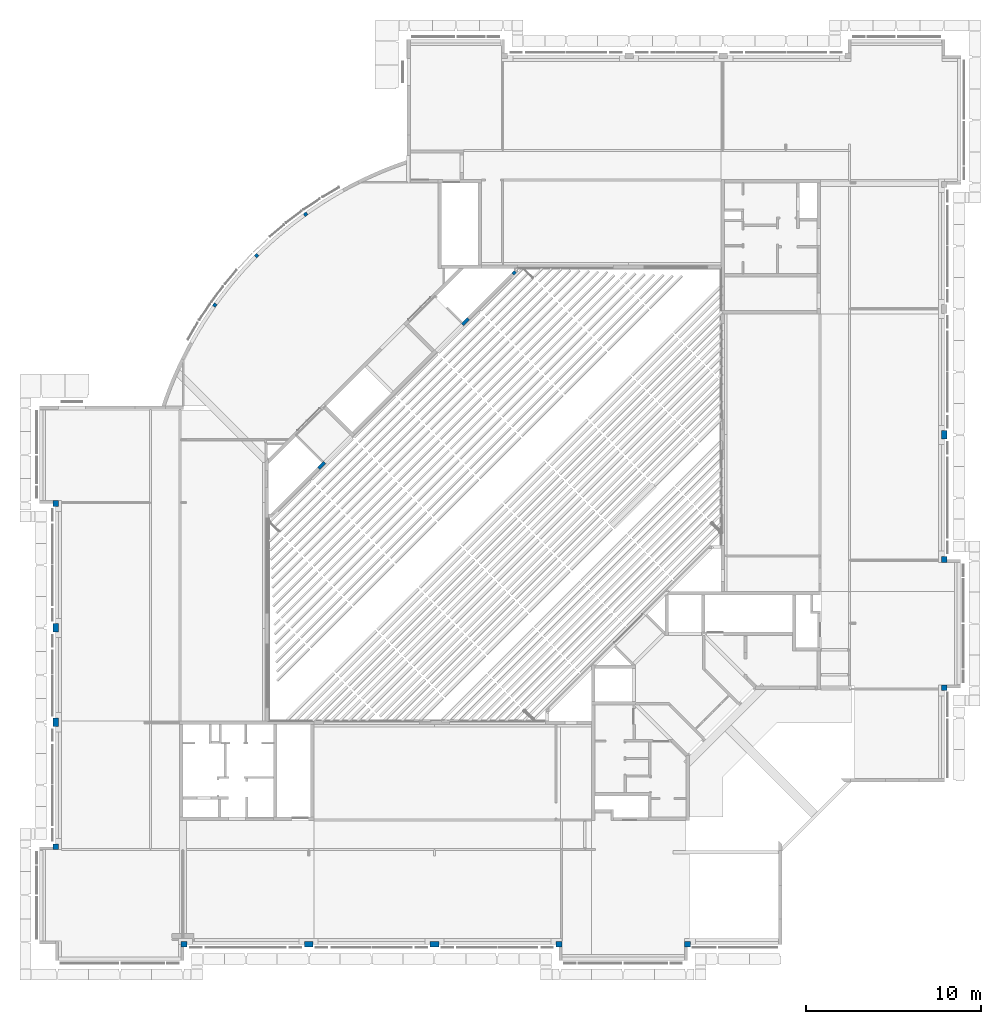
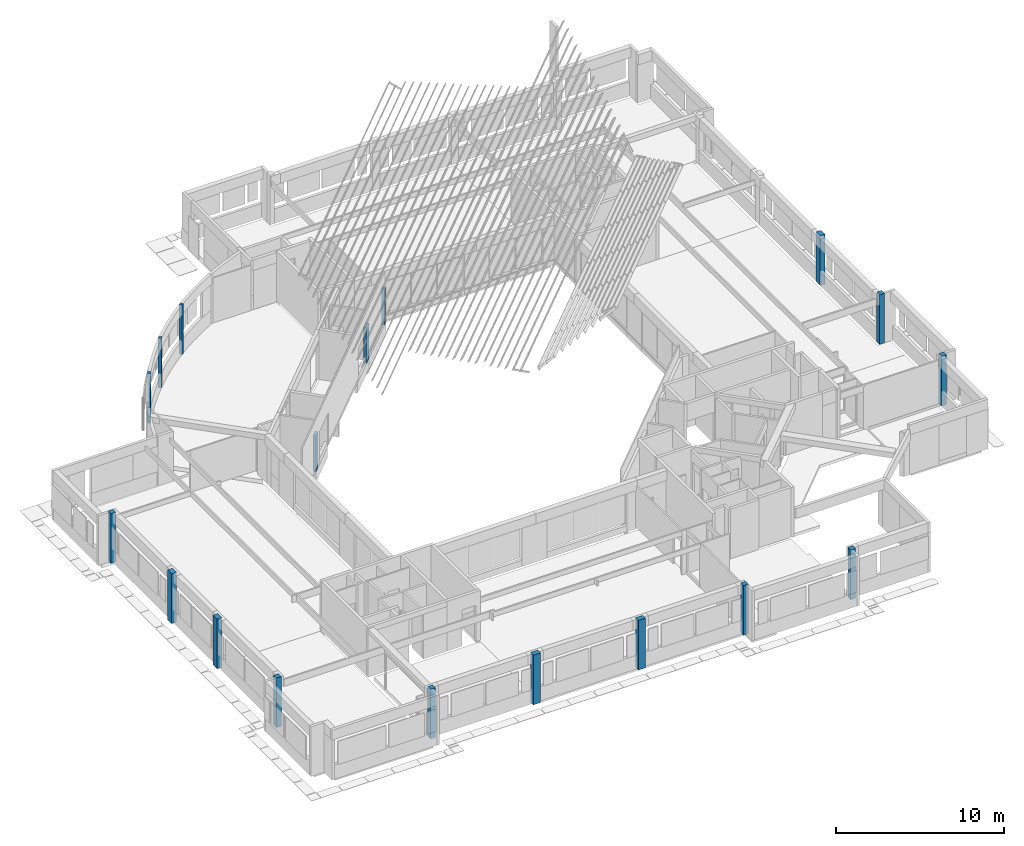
# One storey, part 1 of 37: 18 columns.
"""IFC4X3_ADD2 building model written with IfcOpenShell, lengths in millimetres."""

from ifc_helpers import new_model, si_unit, direction, frame, frame_2d, origin_with_axes, origin_2d_with_axis, place, context, subcontext, project, spatial, rectangle, extrude, source, transform, mapped, material, type_object, type_shapes, element, save


model = new_model("IFC4X3_ADD2")

# Units and contexts
model_context = context("Model", 3, precision=1e-05, world=origin_with_axes(), true_north=direction((0.0, 1.0)))
body_context = subcontext(model_context, "Body", "Model", "MODEL_VIEW")
ifc_project = project(units=[si_unit("LENGTHUNIT", "METRE", prefix="MILLI"), si_unit("AREAUNIT", "SQUARE_METRE"), si_unit("VOLUMEUNIT", "CUBIC_METRE"), si_unit("PLANEANGLEUNIT", "RADIAN"), si_unit("TIMEUNIT", "SECOND"), si_unit("MASSUNIT", "GRAM")], contexts=[model_context])

# Site, building, storey
site_placement = place(None, origin_with_axes())
site = spatial("IfcSite", under=ifc_project, at=site_placement, Name="Site", CompositionType="ELEMENT")
building_placement = place(site_placement, origin_with_axes())
building = spatial("IfcBuilding", under=site, at=building_placement, Name="IFC Building Story")
storey_placement = place(building_placement, frame((0.0, 0.0, 3600.0), z_axis=(0.0, 0.0, 1.0), x_axis=(1.0, 0.0, 0.0)))
storey = spatial("IfcBuildingStorey", under=building, at=storey_placement, Name="010", Elevation=3600.0)

# Columns
ifc_material_1 = material(Name="BB_Beton_Bestaand")
column_type_1 = type_object("IfcColumnType", Name="BB_XX_Kolom_ rechthoekig_ center-center_GTL_340 mm x 340 mm25", PredefinedType="NOTDEFINED")
shared_shape_1 = source(origin_with_axes(), body_context, "Body", "SweptSolid", [
    extrude(rectangle(XDim=340.0, YDim=340.000000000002, at=origin_2d_with_axis()), frame((0.0, 0.0, 3400.0), z_axis=(0.0, 0.0, 1.0), x_axis=(1.0, 0.0, 0.0)), (0.0, 0.0, 1.0), 3600.0),
])
type_shapes(column_type_1, [shared_shape_1])
for number, where, z_axis, x_axis in (
    (1, (-50775.0, 5505.0, -3600.0), (0.0, 0.0, 1.0), (1.0, 0.0, 0.0)),
    (2, (-50775.0, 25155.0, -3600.0), (0.0, 0.0, 1.0), (1.0, 0.0, 0.0)),
    (3, (-43425.0, -75.0, -3600.0), (0.0, 0.0, 1.0), (1.0, 0.0, 0.0)),
    (4, (-21975.0, -75.0, -3600.0), (0.0, 0.0, 1.0), (1.0, 0.0, 0.0)),
    (5, (-14625.0, -75.0, -3600.0), (0.0, 0.0, 1.0), (1.0, 0.0, 0.0)),
):
    element("IfcColumn", number, at=place(storey_placement, frame(where, z_axis=z_axis, x_axis=x_axis)), inside=storey, type_object=column_type_1, material=ifc_material_1, Name="BB_XX_Kolom, rechthoekig, center-center_GTL:340 mm x 340 mm", ObjectType="340 mm x 340 mm", PredefinedType="COLUMN", context=body_context, shape_type="MappedRepresentation", body=[
        mapped(shared_shape_1, transform((0.0, 0.0, 0.0))),
    ])
column_type_2 = type_object("IfcColumnType", Name="BB_XX_Kolom_ rechthoekig_ center-center_GTL_490 mm x 340 mm17", PredefinedType="NOTDEFINED")
shared_shape_2 = source(origin_with_axes(), body_context, "Body", "SweptSolid", [
    extrude(rectangle(XDim=490.0, YDim=340.0, at=origin_2d_with_axis()), frame((0.0, 0.0, 3400.0), z_axis=(0.0, 0.0, 1.0), x_axis=(1.0, 0.0, 0.0)), (0.0, 0.0, 1.0), 3600.0),
])
type_shapes(column_type_2, [shared_shape_2])
for number, where, z_axis, x_axis in (
    (6, (-50775.0, 12630.0, -3600.0), (0.0, 0.0, 1.0), (0.0, 1.0, 0.0)),
    (7, (-50775.0, 18030.0, -3600.0), (0.0, 0.0, 1.0), (0.0, 1.0, 0.0)),
    (8, (-36300.0, -75.0, -3600.0), (0.0, 0.0, 1.0), (1.0, 0.0, 0.0)),
    (9, (-29100.0, -75.0, -3600.0), (0.0, 0.0, 1.0), (1.0, 0.0, 0.0)),
    (10, (75.0, 29080.0, -3600.0), (0.0, 0.0, 1.0), (0.0, 1.0, 0.0)),
):
    element("IfcColumn", number, at=place(storey_placement, frame(where, z_axis=z_axis, x_axis=x_axis)), inside=storey, type_object=column_type_2, material=ifc_material_1, Name="BB_XX_Kolom, rechthoekig, center-center_GTL:490 mm x 340 mm", ObjectType="490 mm x 340 mm", PredefinedType="COLUMN", context=body_context, shape_type="MappedRepresentation", body=[
        mapped(shared_shape_2, transform((0.0, 0.0, 0.0))),
    ])
column_type_3 = type_object("IfcColumnType", Name="BB_XX_Kolom_ rechthoekig_ center-center_GTL_340 mm x 340 mm27", PredefinedType="NOTDEFINED")
shared_shape_3 = source(origin_with_axes(), body_context, "Body", "SweptSolid", [
    extrude(rectangle(XDim=340.0, YDim=340.0, at=origin_2d_with_axis()), frame((75.0, 14605.0, 3400.0), z_axis=(0.0, 0.0, 1.0), x_axis=(1.0, 0.0, 0.0)), (0.0, 0.0, 1.0), 3600.0),
])
type_shapes(column_type_3, [shared_shape_3])
column_1_placement = place(storey_placement, frame((0.0, 0.0, -3600.0), z_axis=(0.0, 0.0, 1.0), x_axis=(1.0, 0.0, 0.0)))
element("IfcColumn", 11, at=column_1_placement, inside=storey, type_object=column_type_3, material=ifc_material_1, Name="BB_XX_Kolom, rechthoekig, center-center_GTL:340 mm x 340 mm", ObjectType="340 mm x 340 mm", PredefinedType="COLUMN", context=body_context, shape_type="MappedRepresentation", body=[
    mapped(shared_shape_3, transform((0.0, 0.0, 0.0))),
])
column_type_4 = type_object("IfcColumnType", Name="BB_XX_Kolom_ rechthoekig_ center-center_GTL_340 mm x 340 mm29", PredefinedType="NOTDEFINED")
shared_shape_4 = source(origin_with_axes(), body_context, "Body", "SweptSolid", [
    extrude(rectangle(XDim=340.0, YDim=340.0, at=origin_2d_with_axis()), frame((75.0, 21955.0, 3400.0), z_axis=(0.0, 0.0, 1.0), x_axis=(1.0, 0.0, 0.0)), (0.0, 0.0, 1.0), 3600.0),
])
type_shapes(column_type_4, [shared_shape_4])
column_2_placement = place(storey_placement, frame((0.0, 0.0, -3600.0), z_axis=(0.0, 0.0, 1.0), x_axis=(1.0, 0.0, 0.0)))
element("IfcColumn", 12, at=column_2_placement, inside=storey, type_object=column_type_4, material=ifc_material_1, Name="BB_XX_Kolom, rechthoekig, center-center_GTL:340 mm x 340 mm", ObjectType="340 mm x 340 mm", PredefinedType="COLUMN", context=body_context, shape_type="MappedRepresentation", body=[
    mapped(shared_shape_4, transform((0.0, 0.0, 0.0))),
])
column_type_5 = type_object("IfcColumnType", Name="BB_XX_Kolom_ rechthoekig_ center-center_GTL_200 mm x 200 mm9", PredefinedType="NOTDEFINED")
shared_shape_5 = source(origin_with_axes(), body_context, "Body", "SweptSolid", [
    extrude(rectangle(XDim=199.9999999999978, YDim=200.000000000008, at=frame_2d((0.0, 0.0), x_axis=(0.7071067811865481, 0.7071067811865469))), frame((-39279.93590277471, 39338.5755130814, 3400.0), z_axis=(0.0, 0.0, 1.0), x_axis=(1.0, 0.0, 0.0)), (0.0, 0.0, 1.0), 3600.0),
])
type_shapes(column_type_5, [shared_shape_5])
column_3_placement = place(storey_placement, frame((0.0, 0.0, -3600.0), z_axis=(0.0, 0.0, 1.0), x_axis=(1.0, 0.0, 0.0)))
element("IfcColumn", 13, at=column_3_placement, inside=storey, type_object=column_type_5, material=ifc_material_1, Name="BB_XX_Kolom, rechthoekig, center-center_GTL:200 mm x 200 mm", ObjectType="200 mm x 200 mm", PredefinedType="COLUMN", context=body_context, shape_type="MappedRepresentation", body=[
    mapped(shared_shape_5, transform((0.0, 0.0, 0.0))),
])
column_type_6 = type_object("IfcColumnType", Name="BB_XX_Kolom_ rechthoekig_ center-center_GTL_200 mm x 200 mm11", PredefinedType="NOTDEFINED")
shared_shape_6 = source(origin_with_axes(), body_context, "Body", "SweptSolid", [
    extrude(rectangle(XDim=199.9999999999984, YDim=200.0000000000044, at=frame_2d((0.0, 0.0), x_axis=(0.5735764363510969, 0.8191520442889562))), frame((-41675.1176866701, 36504.71154364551, 3400.0), z_axis=(0.0, 0.0, 1.0), x_axis=(1.0, 0.0, 0.0)), (0.0, 0.0, 1.0), 3600.0),
])
type_shapes(column_type_6, [shared_shape_6])
column_4_placement = place(storey_placement, frame((0.0, 0.0, -3600.0), z_axis=(0.0, 0.0, 1.0), x_axis=(1.0, 0.0, 0.0)))
element("IfcColumn", 14, at=column_4_placement, inside=storey, type_object=column_type_6, material=ifc_material_1, Name="BB_XX_Kolom, rechthoekig, center-center_GTL:200 mm x 200 mm", ObjectType="200 mm x 200 mm", PredefinedType="COLUMN", context=body_context, shape_type="MappedRepresentation", body=[
    mapped(shared_shape_6, transform((0.0, 0.0, 0.0))),
])
column_type_7 = type_object("IfcColumnType", Name="BB_XX_Kolom_ rechthoekig_ center-center_GTL_200 mm x 200 mm13", PredefinedType="NOTDEFINED")
shared_shape_7 = source(origin_with_axes(), body_context, "Body", "SweptSolid", [
    extrude(rectangle(XDim=200.0000000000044, YDim=200.0000000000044, at=frame_2d((0.0, 0.0), x_axis=(0.8191520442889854, 0.5735764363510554))), frame((-36474.8978894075, 41702.7423259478, 3400.0), z_axis=(0.0, 0.0, 1.0), x_axis=(1.0, 0.0, 0.0)), (0.0, 0.0, 1.0), 3600.0),
])
type_shapes(column_type_7, [shared_shape_7])
column_5_placement = place(storey_placement, frame((0.0, 0.0, -3600.0), z_axis=(0.0, 0.0, 1.0), x_axis=(1.0, 0.0, 0.0)))
element("IfcColumn", 15, at=column_5_placement, inside=storey, type_object=column_type_7, material=ifc_material_1, Name="BB_XX_Kolom, rechthoekig, center-center_GTL:200 mm x 200 mm", ObjectType="200 mm x 200 mm", PredefinedType="COLUMN", context=body_context, shape_type="MappedRepresentation", body=[
    mapped(shared_shape_7, transform((0.0, 0.0, 0.0))),
])
ifc_material_2 = material(Name="Concrete, C30/37")
column_type_8 = type_object("IfcColumnType", Name="BB_XX_Kolom_ rechthoekig_ center-center_GTL_190 mm x 500 mm9", PredefinedType="NOTDEFINED")
shared_shape_8 = source(origin_with_axes(), body_context, "Body", "SweptSolid", [
    extrude(rectangle(XDim=500.0000000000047, YDim=189.9999999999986, at=frame_2d((0.0, 0.0), x_axis=(0.7071067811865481, 0.7071067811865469))), frame((-35559.1307724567, 27335.484910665, 3400.0), z_axis=(0.0, 0.0, 1.0), x_axis=(1.0, 0.0, 0.0)), (0.0, 0.0, 1.0), 2600.0),
])
type_shapes(column_type_8, [shared_shape_8])
column_6_placement = place(storey_placement, frame((0.0, 0.0, -3600.0), z_axis=(0.0, 0.0, 1.0), x_axis=(1.0, 0.0, 0.0)))
element("IfcColumn", 16, at=column_6_placement, inside=storey, type_object=column_type_8, material=ifc_material_2, Name="BB_XX_Kolom, rechthoekig, center-center_GTL:190 mm x 500 mm", ObjectType="190 mm x 500 mm", PredefinedType="COLUMN", context=body_context, shape_type="MappedRepresentation", body=[
    mapped(shared_shape_8, transform((0.0, 0.0, 0.0))),
])
column_type_9 = type_object("IfcColumnType", Name="BB_XX_Kolom_ rechthoekig_ center-center_GTL_190 mm x 500 mm11", PredefinedType="NOTDEFINED")
shared_shape_9 = source(origin_with_axes(), body_context, "Body", "SweptSolid", [
    extrude(rectangle(XDim=500.0000000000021, YDim=190.0000000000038, at=frame_2d((0.0, 0.0), x_axis=(0.7071067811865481, 0.7071067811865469))), frame((-27335.4819089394, 35559.1337741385, 3400.0), z_axis=(0.0, 0.0, 1.0), x_axis=(1.0, 0.0, 0.0)), (0.0, 0.0, 1.0), 2600.0),
])
type_shapes(column_type_9, [shared_shape_9])
column_7_placement = place(storey_placement, frame((0.0, 0.0, -3600.0), z_axis=(0.0, 0.0, 1.0), x_axis=(1.0, 0.0, 0.0)))
element("IfcColumn", 17, at=column_7_placement, inside=storey, type_object=column_type_9, material=ifc_material_2, Name="BB_XX_Kolom, rechthoekig, center-center_GTL:190 mm x 500 mm", ObjectType="190 mm x 500 mm", PredefinedType="COLUMN", context=body_context, shape_type="MappedRepresentation", body=[
    mapped(shared_shape_9, transform((0.0, 0.0, 0.0))),
])
column_type_10 = type_object("IfcColumnType", Name="BB_XX_Kolom_ rechthoekig_ center-center_GTL_190 mm x 200 mm5", PredefinedType="NOTDEFINED")
shared_shape_10 = source(origin_with_axes(), body_context, "Body", "SweptSolid", [
    extrude(rectangle(XDim=200.0000000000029, YDim=190.0000000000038, at=frame_2d((0.0, 0.0), x_axis=(0.7071067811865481, 0.7071067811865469))), frame((-24540.06754798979, 38354.5481350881, 3400.0), z_axis=(0.0, 0.0, 1.0), x_axis=(1.0, 0.0, 0.0)), (0.0, 0.0, 1.0), 2600.0),
])
type_shapes(column_type_10, [shared_shape_10])
column_8_placement = place(storey_placement, frame((0.0, 0.0, -3600.0), z_axis=(0.0, 0.0, 1.0), x_axis=(1.0, 0.0, 0.0)))
element("IfcColumn", 18, at=column_8_placement, inside=storey, type_object=column_type_10, material=ifc_material_2, Name="BB_XX_Kolom, rechthoekig, center-center_GTL:190 mm x 200 mm", ObjectType="190 mm x 200 mm", PredefinedType="COLUMN", context=body_context, shape_type="MappedRepresentation", body=[
    mapped(shared_shape_10, transform((0.0, 0.0, 0.0))),
])

save(model, "model.ifc")
